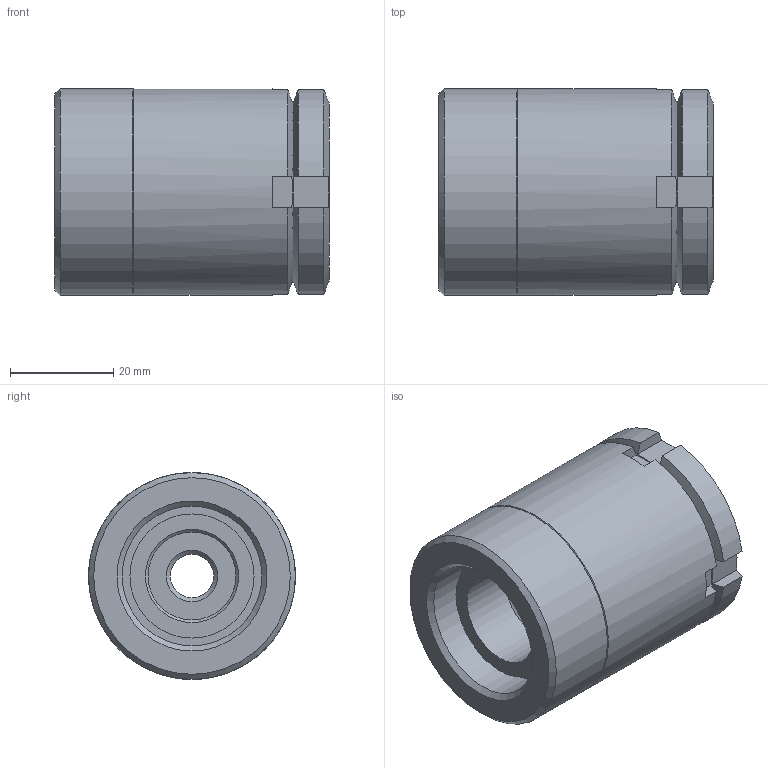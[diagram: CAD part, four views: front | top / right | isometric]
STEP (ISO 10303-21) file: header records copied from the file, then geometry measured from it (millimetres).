
FILE_DESCRIPTION( ( 'STEP AP203' ), '1' );
FILE_NAME( 'C:/Temp/Ganter_Step_05_03_2020/data/3_2/gn360/gn360_ni/Stainless Steel-Levelling set GN 360-40-M10-69-A-NI (0-0).stp', '2020-03-13T05:41:59', ( 'License CC BY-ND 4.0' ), ( 'CADENAS' ), ' ', 'PARTsolutions', ' ' );
FILE_SCHEMA( ( 'CONFIG_CONTROL_DESIGN' ) );
Length unit declared in the file: millimetre
Products named in the file (4): Stainless Steel-Levelling set GN 360-40-M10-69-A-NI (0-0); _Stainless Steel-Levelling set GN 360-40-M10-69-A-NI (0-0)-1; _Stainless Steel-Levelling set GN 360-40-M10-69-A-NI (0-0)-2; _Stainless Steel-Levelling set GN 360-40-M10-69-A-NI (0-0)-3
Assembly tree (3 placements, depth 2):
  Stainless Steel-Levelling set GN 360-40-M10-69-A-NI (0-0)
    _Stainless Steel-Levelling set GN 360-40-M10-69-A-NI (0-0)-1
    _Stainless Steel-Levelling set GN 360-40-M10-69-A-NI (0-0)-2
    _Stainless Steel-Levelling set GN 360-40-M10-69-A-NI (0-0)-3
Bounding box: 53 x 40 x 40 mm (x, y, z)
Volume: 52872.7 mm3; surface area: 21460.9 mm2
Topology: 3 solids, 3 shells, 72 faces, 167 edges, 107 vertices
Faces by surface type: plane 40, cylinder 17, cone 12, sphere 2, torus 1
Full cylindrical faces by diameter (mm): 8.376 x1, 17 x1, 18 x1, 20 x1, 23.5 x1, 24 x1, 26 x1, 26.376 x1, 27 x1, 28 x1, 28.5 x1, 40 x2
Entity records: 2101 total; most frequent: CARTESIAN_POINT 480, DIRECTION 304, ORIENTED_EDGE 268, EDGE_CURVE 134, AXIS2_PLACEMENT_3D 130, EDGE_LOOP 112, VERTEX_POINT 102, FACE_OUTER_BOUND 88
